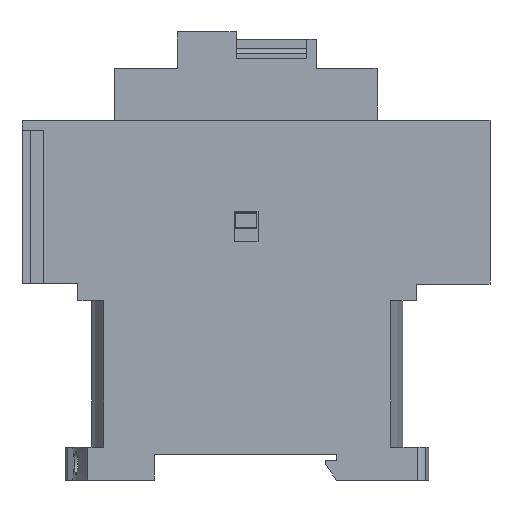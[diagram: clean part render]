
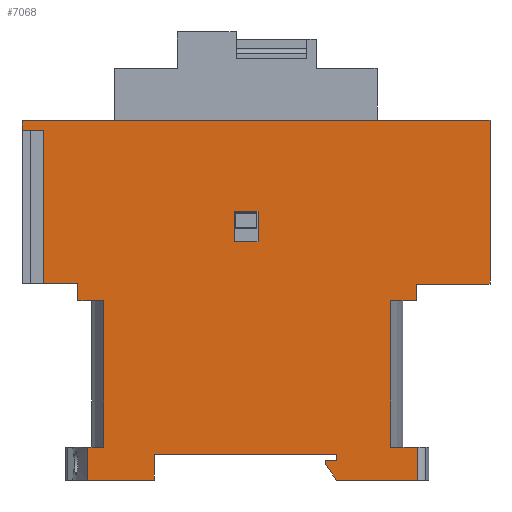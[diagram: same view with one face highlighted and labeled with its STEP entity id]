
A CAD part, left-side view. The second image highlights one B-rep face of the part: STEP entity #7068.
In plain terms, the highlighted planar face has unit normal (-1, 0, 0).
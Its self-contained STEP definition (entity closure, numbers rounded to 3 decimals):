
#2=DIRECTION('',(0.,0.,1.));
#3=VECTOR('',#2,6.524);
#4=CARTESIAN_POINT('',(0.,36.2,50.536));
#5=LINE('',#4,#3);
#6=DIRECTION('',(0.,1.,0.));
#7=VECTOR('',#6,5.072);
#8=CARTESIAN_POINT('',(0.,36.2,57.06));
#9=LINE('',#8,#7);
#10=DIRECTION('',(0.,0.,-1.));
#11=VECTOR('',#10,6.524);
#12=CARTESIAN_POINT('',(0.,41.272,57.06));
#13=LINE('',#12,#11);
#14=DIRECTION('',(0.,-1.,0.));
#15=VECTOR('',#14,5.072);
#16=CARTESIAN_POINT('',(0.,41.272,50.536));
#17=LINE('',#16,#15);
#18=DIRECTION('',(0.,0.,1.));
#19=VECTOR('',#18,31.054);
#20=CARTESIAN_POINT('',(0.,68.946,7.));
#21=LINE('',#20,#19);
#22=DIRECTION('',(0.,-1.,0.));
#23=VECTOR('',#22,5.454);
#24=CARTESIAN_POINT('',(0.,74.4,38.054));
#25=LINE('',#24,#23);
#26=DIRECTION('',(0.,0.,-1.));
#27=VECTOR('',#26,3.639);
#28=CARTESIAN_POINT('',(0.,74.4,41.693));
#29=LINE('',#28,#27);
#30=DIRECTION('',(0.,-1.,0.));
#31=VECTOR('',#30,7.217);
#32=CARTESIAN_POINT('',(0.,81.617,41.693));
#33=LINE('',#32,#31);
#34=DIRECTION('',(0.,0.,-1.));
#35=VECTOR('',#34,32.5);
#36=CARTESIAN_POINT('',(0.,81.617,74.193));
#37=LINE('',#36,#35);
#38=DIRECTION('',(0.,1.,0.));
#39=VECTOR('',#38,4.632);
#40=CARTESIAN_POINT('',(0.,81.617,74.193));
#41=LINE('',#40,#39);
#42=DIRECTION('',(0.,0.,-1.));
#43=VECTOR('',#42,2.004);
#44=CARTESIAN_POINT('',(0.,86.249,76.197));
#45=LINE('',#44,#43);
#46=DIRECTION('',(0.,0.,1.));
#47=VECTOR('',#46,0.125);
#48=CARTESIAN_POINT('',(0.,10.969,76.197));
#49=LINE('',#48,#47);
#50=DIRECTION('',(0.,1.,0.));
#51=VECTOR('',#50,23.954);
#52=CARTESIAN_POINT('',(0.,-12.985,76.322));
#53=LINE('',#52,#51);
#54=DIRECTION('',(0.,0.,1.));
#55=VECTOR('',#54,34.732);
#56=CARTESIAN_POINT('',(0.,-12.985,41.59));
#57=LINE('',#56,#55);
#58=DIRECTION('',(0.,-1.,0.));
#59=VECTOR('',#58,15.585);
#60=CARTESIAN_POINT('',(0.,2.6,41.59));
#61=LINE('',#60,#59);
#62=DIRECTION('',(0.,0.,1.));
#63=VECTOR('',#62,3.536);
#64=CARTESIAN_POINT('',(0.,2.6,38.054));
#65=LINE('',#64,#63);
#66=DIRECTION('',(0.,0.,1.));
#67=VECTOR('',#66,31.054);
#68=CARTESIAN_POINT('',(0.,8.092,7.));
#69=LINE('',#68,#67);
#70=DIRECTION('',(0.,0.,1.));
#71=VECTOR('',#70,7.);
#72=CARTESIAN_POINT('',(0.,2.402,0.));
#73=LINE('',#72,#71);
#74=DIRECTION('',(0.,-1.,0.));
#75=VECTOR('',#74,17.148);
#76=CARTESIAN_POINT('',(0.,19.549,0.));
#77=LINE('',#76,#75);
#78=DIRECTION('',(0.,-0.574,-0.819));
#79=VECTOR('',#78,4.273);
#80=CARTESIAN_POINT('',(0.,22.,3.5));
#81=LINE('',#80,#79);
#82=DIRECTION('',(0.,0.,-1.));
#83=VECTOR('',#82,0.7);
#84=CARTESIAN_POINT('',(0.,22.,4.2));
#85=LINE('',#84,#83);
#86=DIRECTION('',(0.,1.,0.));
#87=VECTOR('',#86,2.4);
#88=CARTESIAN_POINT('',(0.,19.6,4.2));
#89=LINE('',#88,#87);
#90=DIRECTION('',(0.,0.,-1.));
#91=VECTOR('',#90,1.3);
#92=CARTESIAN_POINT('',(0.,19.6,5.5));
#93=LINE('',#92,#91);
#94=DIRECTION('',(0.,-1.,0.));
#95=VECTOR('',#94,38.6);
#96=CARTESIAN_POINT('',(0.,58.2,5.5));
#97=LINE('',#96,#95);
#98=DIRECTION('',(0.,0.,1.));
#99=VECTOR('',#98,5.5);
#100=CARTESIAN_POINT('',(0.,58.2,0.));
#101=LINE('',#100,#99);
#102=DIRECTION('',(0.,-1.,0.));
#103=VECTOR('',#102,14.101);
#104=CARTESIAN_POINT('',(0.,72.301,0.));
#105=LINE('',#104,#103);
#106=DIRECTION('',(0.,0.,1.));
#107=VECTOR('',#106,7.);
#108=CARTESIAN_POINT('',(0.,72.301,0.));
#109=LINE('',#108,#107);
#243=DIRECTION('',(0.,1.,0.));
#244=VECTOR('',#243,3.354);
#245=CARTESIAN_POINT('',(0.,68.946,7.));
#246=LINE('',#245,#244);
#326=DIRECTION('',(0.,1.,0.));
#327=VECTOR('',#326,5.691);
#328=CARTESIAN_POINT('',(0.,2.402,7.));
#329=LINE('',#328,#327);
#992=DIRECTION('',(0.,-1.,0.));
#993=VECTOR('',#992,5.492);
#994=CARTESIAN_POINT('',(0.,8.092,38.054));
#995=LINE('',#994,#993);
#2345=DIRECTION('',(0.,1.,0.));
#2346=VECTOR('',#2345,75.28);
#2347=CARTESIAN_POINT('',(0.,10.969,76.197));
#2348=LINE('',#2347,#2346);
#5493=CARTESIAN_POINT('',(0.,2.6,38.054));
#5494=CARTESIAN_POINT('',(0.,2.6,41.59));
#5495=VERTEX_POINT('',#5493);
#5496=VERTEX_POINT('',#5494);
#5497=CARTESIAN_POINT('',(0.,-12.985,41.59));
#5498=VERTEX_POINT('',#5497);
#5499=CARTESIAN_POINT('',(0.,-12.985,76.322));
#5500=VERTEX_POINT('',#5499);
#5501=CARTESIAN_POINT('',(0.,58.2,0.));
#5502=CARTESIAN_POINT('',(0.,58.2,5.5));
#5503=VERTEX_POINT('',#5501);
#5504=VERTEX_POINT('',#5502);
#5505=CARTESIAN_POINT('',(0.,19.6,5.5));
#5506=VERTEX_POINT('',#5505);
#5507=CARTESIAN_POINT('',(0.,19.6,4.2));
#5508=VERTEX_POINT('',#5507);
#5509=CARTESIAN_POINT('',(0.,22.,4.2));
#5510=VERTEX_POINT('',#5509);
#5511=CARTESIAN_POINT('',(0.,22.,3.5));
#5512=VERTEX_POINT('',#5511);
#5513=CARTESIAN_POINT('',(0.,19.549,0.));
#5514=VERTEX_POINT('',#5513);
#5537=CARTESIAN_POINT('',(0.,74.4,41.693));
#5539=VERTEX_POINT('',#5537);
#5627=CARTESIAN_POINT('',(0.,10.969,76.322));
#5628=VERTEX_POINT('',#5627);
#5639=CARTESIAN_POINT('',(0.,72.301,0.));
#5640=CARTESIAN_POINT('',(0.,72.301,7.));
#5641=VERTEX_POINT('',#5639);
#5642=VERTEX_POINT('',#5640);
#5663=CARTESIAN_POINT('',(0.,2.402,0.));
#5664=CARTESIAN_POINT('',(0.,2.402,7.));
#5665=VERTEX_POINT('',#5663);
#5666=VERTEX_POINT('',#5664);
#5703=CARTESIAN_POINT('',(0.,36.2,50.536));
#5704=CARTESIAN_POINT('',(0.,36.2,57.06));
#5705=VERTEX_POINT('',#5703);
#5706=VERTEX_POINT('',#5704);
#5707=CARTESIAN_POINT('',(0.,41.272,57.06));
#5708=VERTEX_POINT('',#5707);
#5709=CARTESIAN_POINT('',(0.,41.272,50.536));
#5710=VERTEX_POINT('',#5709);
#5799=CARTESIAN_POINT('',(0.,10.969,76.197));
#5800=VERTEX_POINT('',#5799);
#5805=CARTESIAN_POINT('',(0.,86.249,76.197));
#5806=VERTEX_POINT('',#5805);
#6511=CARTESIAN_POINT('',(0.,81.617,74.193));
#6512=CARTESIAN_POINT('',(0.,86.249,74.193));
#6513=VERTEX_POINT('',#6511);
#6514=VERTEX_POINT('',#6512);
#6515=CARTESIAN_POINT('',(0.,81.617,41.693));
#6516=VERTEX_POINT('',#6515);
#6879=CARTESIAN_POINT('',(0.,68.946,7.));
#6880=CARTESIAN_POINT('',(0.,68.946,38.054));
#6881=VERTEX_POINT('',#6879);
#6882=VERTEX_POINT('',#6880);
#6883=CARTESIAN_POINT('',(0.,8.092,7.));
#6884=CARTESIAN_POINT('',(0.,8.092,38.054));
#6885=VERTEX_POINT('',#6883);
#6886=VERTEX_POINT('',#6884);
#6899=CARTESIAN_POINT('',(0.,74.4,38.054));
#6900=VERTEX_POINT('',#6899);
#6997=CARTESIAN_POINT('',(0.,0.,0.));
#6998=DIRECTION('',(-1.,0.,0.));
#6999=DIRECTION('',(0.,0.,1.));
#7000=AXIS2_PLACEMENT_3D('',#6997,#6998,#6999);
#7001=PLANE('',#7000);
#7003=ORIENTED_EDGE('',*,*,#7002,.F.);
#7005=ORIENTED_EDGE('',*,*,#7004,.T.);
#7007=ORIENTED_EDGE('',*,*,#7006,.F.);
#7009=ORIENTED_EDGE('',*,*,#7008,.F.);
#7011=ORIENTED_EDGE('',*,*,#7010,.F.);
#7013=ORIENTED_EDGE('',*,*,#7012,.F.);
#7015=ORIENTED_EDGE('',*,*,#7014,.T.);
#7017=ORIENTED_EDGE('',*,*,#7016,.F.);
#7019=ORIENTED_EDGE('',*,*,#7018,.F.);
#7021=ORIENTED_EDGE('',*,*,#7020,.T.);
#7023=ORIENTED_EDGE('',*,*,#7022,.F.);
#7025=ORIENTED_EDGE('',*,*,#7024,.F.);
#7027=ORIENTED_EDGE('',*,*,#7026,.F.);
#7029=ORIENTED_EDGE('',*,*,#7028,.F.);
#7031=ORIENTED_EDGE('',*,*,#7030,.F.);
#7033=ORIENTED_EDGE('',*,*,#7032,.F.);
#7035=ORIENTED_EDGE('',*,*,#7034,.F.);
#7037=ORIENTED_EDGE('',*,*,#7036,.F.);
#7039=ORIENTED_EDGE('',*,*,#7038,.F.);
#7041=ORIENTED_EDGE('',*,*,#7040,.F.);
#7043=ORIENTED_EDGE('',*,*,#7042,.F.);
#7045=ORIENTED_EDGE('',*,*,#7044,.F.);
#7047=ORIENTED_EDGE('',*,*,#7046,.F.);
#7049=ORIENTED_EDGE('',*,*,#7048,.F.);
#7051=ORIENTED_EDGE('',*,*,#7050,.F.);
#7053=ORIENTED_EDGE('',*,*,#7052,.F.);
#7055=ORIENTED_EDGE('',*,*,#7054,.T.);
#7056=EDGE_LOOP('',(#7003,#7005,#7007,#7009,#7011,#7013,#7015,#7017,#7019,#7021,
#7023,#7025,#7027,#7029,#7031,#7033,#7035,#7037,#7039,#7041,#7043,#7045,#7047,
#7049,#7051,#7053,#7055));
#7057=FACE_OUTER_BOUND('',#7056,.F.);
#7059=ORIENTED_EDGE('',*,*,#7058,.T.);
#7061=ORIENTED_EDGE('',*,*,#7060,.T.);
#7063=ORIENTED_EDGE('',*,*,#7062,.T.);
#7065=ORIENTED_EDGE('',*,*,#7064,.T.);
#7066=EDGE_LOOP('',(#7059,#7061,#7063,#7065));
#7067=FACE_BOUND('',#7066,.F.);
#7002=EDGE_CURVE('',#6881,#5642,#246,.T.);
#7004=EDGE_CURVE('',#6881,#6882,#21,.T.);
#7006=EDGE_CURVE('',#6900,#6882,#25,.T.);
#7008=EDGE_CURVE('',#5539,#6900,#29,.T.);
#7010=EDGE_CURVE('',#6516,#5539,#33,.T.);
#7012=EDGE_CURVE('',#6513,#6516,#37,.T.);
#7014=EDGE_CURVE('',#6513,#6514,#41,.T.);
#7016=EDGE_CURVE('',#5806,#6514,#45,.T.);
#7018=EDGE_CURVE('',#5800,#5806,#2348,.T.);
#7020=EDGE_CURVE('',#5800,#5628,#49,.T.);
#7022=EDGE_CURVE('',#5500,#5628,#53,.T.);
#7024=EDGE_CURVE('',#5498,#5500,#57,.T.);
#7026=EDGE_CURVE('',#5496,#5498,#61,.T.);
#7028=EDGE_CURVE('',#5495,#5496,#65,.T.);
#7030=EDGE_CURVE('',#6886,#5495,#995,.T.);
#7032=EDGE_CURVE('',#6885,#6886,#69,.T.);
#7034=EDGE_CURVE('',#5666,#6885,#329,.T.);
#7036=EDGE_CURVE('',#5665,#5666,#73,.T.);
#7038=EDGE_CURVE('',#5514,#5665,#77,.T.);
#7040=EDGE_CURVE('',#5512,#5514,#81,.T.);
#7042=EDGE_CURVE('',#5510,#5512,#85,.T.);
#7044=EDGE_CURVE('',#5508,#5510,#89,.T.);
#7046=EDGE_CURVE('',#5506,#5508,#93,.T.);
#7048=EDGE_CURVE('',#5504,#5506,#97,.T.);
#7050=EDGE_CURVE('',#5503,#5504,#101,.T.);
#7052=EDGE_CURVE('',#5641,#5503,#105,.T.);
#7054=EDGE_CURVE('',#5641,#5642,#109,.T.);
#7058=EDGE_CURVE('',#5705,#5706,#5,.T.);
#7060=EDGE_CURVE('',#5706,#5708,#9,.T.);
#7062=EDGE_CURVE('',#5708,#5710,#13,.T.);
#7064=EDGE_CURVE('',#5710,#5705,#17,.T.);
#7068=ADVANCED_FACE('',(#7057,#7067),#7001,.T.);
